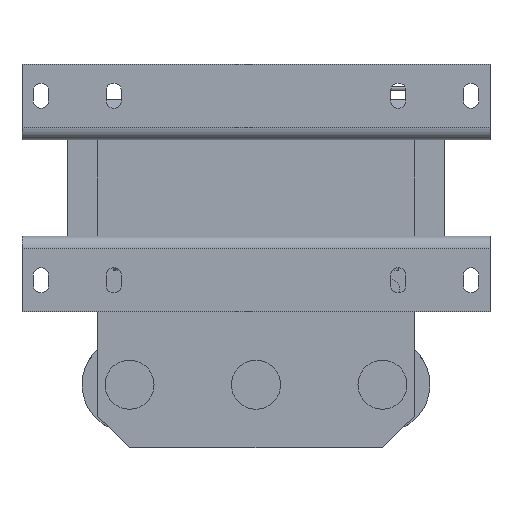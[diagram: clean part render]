
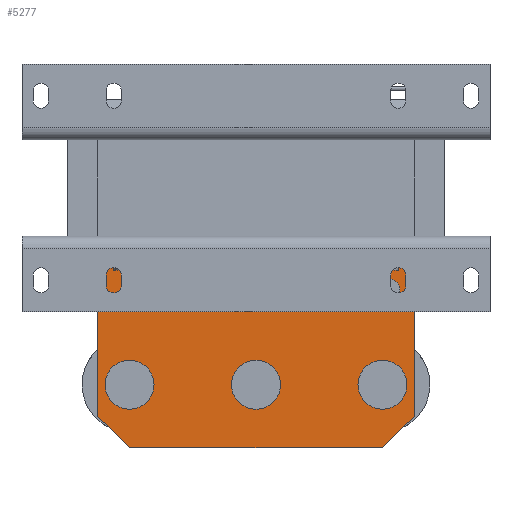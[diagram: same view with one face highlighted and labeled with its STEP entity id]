
A CAD part, front view. The second image highlights one B-rep face of the part: STEP entity #5277.
In plain terms, the highlighted planar face has unit normal (0, -1, 0).
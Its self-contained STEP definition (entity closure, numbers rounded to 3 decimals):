
#8 = CARTESIAN_POINT ( 'NONE',  ( -40., 23.5, -69.95 ) ) ;
#41 = ORIENTED_EDGE ( 'NONE', *, *, #8538, .T. ) ;
#280 = AXIS2_PLACEMENT_3D ( 'NONE', #8479, #15542, #4318 ) ;
#430 = DIRECTION ( 'NONE',  ( 0., 0., 1. ) ) ;
#473 = DIRECTION ( 'NONE',  ( 0., 0., 1. ) ) ;
#718 = DIRECTION ( 'NONE',  ( 0., -1., 0. ) ) ;
#859 = ORIENTED_EDGE ( 'NONE', *, *, #4625, .F. ) ;
#957 = EDGE_LOOP ( 'NONE', ( #23367, #859 ) ) ;
#1225 = VERTEX_POINT ( 'NONE', #23707 ) ;
#1398 = LINE ( 'NONE', #7120, #17499 ) ;
#1525 = DIRECTION ( 'NONE',  ( 0.707, 0., 0.707 ) ) ;
#1708 = ORIENTED_EDGE ( 'NONE', *, *, #9685, .F. ) ;
#1717 = VERTEX_POINT ( 'NONE', #8469 ) ;
#1868 = AXIS2_PLACEMENT_3D ( 'NONE', #2977, #2739, #19783 ) ;
#2539 = VECTOR ( 'NONE', #8842, 1000. ) ;
#2739 = DIRECTION ( 'NONE',  ( 0., -1., 0. ) ) ;
#2966 = AXIS2_PLACEMENT_3D ( 'NONE', #19158, #15410, #430 ) ;
#2977 = CARTESIAN_POINT ( 'NONE',  ( -40., 23.5, -62.2 ) ) ;
#2981 = AXIS2_PLACEMENT_3D ( 'NONE', #19929, #21862, #12167 ) ;
#3296 = ORIENTED_EDGE ( 'NONE', *, *, #19776, .T. ) ;
#3384 = VERTEX_POINT ( 'NONE', #8 ) ;
#3530 = CARTESIAN_POINT ( 'NONE',  ( 42., 23.5, -28.7 ) ) ;
#3704 = ORIENTED_EDGE ( 'NONE', *, *, #11056, .T. ) ;
#4011 = VERTEX_POINT ( 'NONE', #10680 ) ;
#4318 = DIRECTION ( 'NONE',  ( 0., 0., 1. ) ) ;
#4625 = EDGE_CURVE ( 'NONE', #22520, #1225, #19283, .T. ) ;
#4689 = FACE_BOUND ( 'NONE', #15128, .T. ) ;
#5071 = VERTEX_POINT ( 'NONE', #6546 ) ;
#5277 = ADVANCED_FACE ( 'NONE', ( #4689, #11759, #15424, #20876, #15773 ), #11651, .F. ) ;
#6106 = CARTESIAN_POINT ( 'NONE',  ( -50., 23.5, -72.2 ) ) ;
#6220 = VECTOR ( 'NONE', #23671, 1000. ) ;
#6546 = CARTESIAN_POINT ( 'NONE',  ( -40., 23.5, -82.2 ) ) ;
#6625 = CIRCLE ( 'NONE', #13647, 3.5 ) ;
#6914 = EDGE_CURVE ( 'NONE', #8366, #5071, #8214, .T. ) ;
#6955 = DIRECTION ( 'NONE',  ( 0., 0., -1. ) ) ;
#7015 = EDGE_LOOP ( 'NONE', ( #13412, #16724 ) ) ;
#7120 = CARTESIAN_POINT ( 'NONE',  ( 40., 23.5, -82.2 ) ) ;
#7412 = VERTEX_POINT ( 'NONE', #17836 ) ;
#8214 = LINE ( 'NONE', #23032, #9548 ) ;
#8366 = VERTEX_POINT ( 'NONE', #9458 ) ;
#8460 = EDGE_CURVE ( 'NONE', #22135, #4011, #9944, .T. ) ;
#8469 = CARTESIAN_POINT ( 'NONE',  ( -50., 23.5, -21.2 ) ) ;
#8479 = CARTESIAN_POINT ( 'NONE',  ( 50., 23.5, -17.2 ) ) ;
#8538 = EDGE_CURVE ( 'NONE', #17610, #5071, #16132, .T. ) ;
#8781 = AXIS2_PLACEMENT_3D ( 'NONE', #11890, #19305, #10912 ) ;
#8842 = DIRECTION ( 'NONE',  ( 0.707, 0., -0.707 ) ) ;
#8873 = ORIENTED_EDGE ( 'NONE', *, *, #10984, .F. ) ;
#9333 = DIRECTION ( 'NONE',  ( 0., 1., 0. ) ) ;
#9458 = CARTESIAN_POINT ( 'NONE',  ( 40., 23.5, -82.2 ) ) ;
#9548 = VECTOR ( 'NONE', #13577, 1000. ) ;
#9592 = CIRCLE ( 'NONE', #2966, 3.5 ) ;
#9685 = EDGE_CURVE ( 'NONE', #3384, #18001, #13506, .T. ) ;
#9746 = EDGE_CURVE ( 'NONE', #1225, #22520, #12342, .T. ) ;
#9766 = EDGE_LOOP ( 'NONE', ( #22614, #1708 ) ) ;
#9944 = CIRCLE ( 'NONE', #8781, 7.75 ) ;
#10088 = EDGE_CURVE ( 'NONE', #4011, #22135, #11261, .T. ) ;
#10346 = LINE ( 'NONE', #17751, #18045 ) ;
#10355 = AXIS2_PLACEMENT_3D ( 'NONE', #21938, #12717, #11258 ) ;
#10680 = CARTESIAN_POINT ( 'NONE',  ( 0., 23.5, -54.45 ) ) ;
#10912 = DIRECTION ( 'NONE',  ( 0., 0., 1. ) ) ;
#10978 = CARTESIAN_POINT ( 'NONE',  ( -50., 23.5, -17.2 ) ) ;
#10984 = EDGE_CURVE ( 'NONE', #7412, #19062, #22198, .T. ) ;
#11056 = EDGE_CURVE ( 'NONE', #8366, #19062, #1398, .T. ) ;
#11258 = DIRECTION ( 'NONE',  ( 0., 0., 1. ) ) ;
#11261 = CIRCLE ( 'NONE', #21723, 7.75 ) ;
#11651 = PLANE ( 'NONE',  #280 ) ;
#11759 = FACE_BOUND ( 'NONE', #9766, .T. ) ;
#11890 = CARTESIAN_POINT ( 'NONE',  ( 0., 23.5, -62.2 ) ) ;
#12167 = DIRECTION ( 'NONE',  ( 0., 0., 1. ) ) ;
#12225 = EDGE_CURVE ( 'NONE', #16929, #15233, #6625, .T. ) ;
#12342 = CIRCLE ( 'NONE', #2981, 7.75 ) ;
#12385 = CARTESIAN_POINT ( 'NONE',  ( 50., 23.5, -17.2 ) ) ;
#12717 = DIRECTION ( 'NONE',  ( 0., -1., 0. ) ) ;
#12797 = LINE ( 'NONE', #10978, #20033 ) ;
#13129 = ORIENTED_EDGE ( 'NONE', *, *, #18154, .T. ) ;
#13412 = ORIENTED_EDGE ( 'NONE', *, *, #10088, .F. ) ;
#13506 = CIRCLE ( 'NONE', #16603, 7.75 ) ;
#13577 = DIRECTION ( 'NONE',  ( -1., 0., 0. ) ) ;
#13647 = AXIS2_PLACEMENT_3D ( 'NONE', #18559, #9333, #21732 ) ;
#13881 = CARTESIAN_POINT ( 'NONE',  ( -40., 23.5, -54.45 ) ) ;
#13946 = CIRCLE ( 'NONE', #1868, 7.75 ) ;
#14296 = ORIENTED_EDGE ( 'NONE', *, *, #6914, .F. ) ;
#14893 = ORIENTED_EDGE ( 'NONE', *, *, #12225, .T. ) ;
#14968 = CARTESIAN_POINT ( 'NONE',  ( 40., 23.5, -69.95 ) ) ;
#15128 = EDGE_LOOP ( 'NONE', ( #14893, #3296 ) ) ;
#15233 = VERTEX_POINT ( 'NONE', #20062 ) ;
#15410 = DIRECTION ( 'NONE',  ( 0., 1., 0. ) ) ;
#15424 = FACE_BOUND ( 'NONE', #7015, .T. ) ;
#15542 = DIRECTION ( 'NONE',  ( 0., 1., 0. ) ) ;
#15773 = FACE_OUTER_BOUND ( 'NONE', #19008, .T. ) ;
#15891 = ORIENTED_EDGE ( 'NONE', *, *, #18823, .T. ) ;
#16104 = DIRECTION ( 'NONE',  ( 0., -1., 0. ) ) ;
#16132 = LINE ( 'NONE', #20146, #2539 ) ;
#16354 = DIRECTION ( 'NONE',  ( 0., 0., 1. ) ) ;
#16603 = AXIS2_PLACEMENT_3D ( 'NONE', #17269, #718, #473 ) ;
#16724 = ORIENTED_EDGE ( 'NONE', *, *, #8460, .F. ) ;
#16929 = VERTEX_POINT ( 'NONE', #3530 ) ;
#17269 = CARTESIAN_POINT ( 'NONE',  ( -40., 23.5, -62.2 ) ) ;
#17499 = VECTOR ( 'NONE', #1525, 1000. ) ;
#17610 = VERTEX_POINT ( 'NONE', #6106 ) ;
#17751 = CARTESIAN_POINT ( 'NONE',  ( 50., 23.5, -21.2 ) ) ;
#17836 = CARTESIAN_POINT ( 'NONE',  ( 50., 23.5, -21.2 ) ) ;
#18001 = VERTEX_POINT ( 'NONE', #13881 ) ;
#18045 = VECTOR ( 'NONE', #19933, 1000. ) ;
#18154 = EDGE_CURVE ( 'NONE', #7412, #1717, #10346, .T. ) ;
#18278 = CARTESIAN_POINT ( 'NONE',  ( 0., 23.5, -69.95 ) ) ;
#18559 = CARTESIAN_POINT ( 'NONE',  ( 42., 23.5, -32.2 ) ) ;
#18823 = EDGE_CURVE ( 'NONE', #1717, #17610, #12797, .T. ) ;
#19008 = EDGE_LOOP ( 'NONE', ( #3704, #8873, #13129, #15891, #41, #14296 ) ) ;
#19062 = VERTEX_POINT ( 'NONE', #23228 ) ;
#19158 = CARTESIAN_POINT ( 'NONE',  ( 42., 23.5, -32.2 ) ) ;
#19283 = CIRCLE ( 'NONE', #10355, 7.75 ) ;
#19305 = DIRECTION ( 'NONE',  ( 0., -1., 0. ) ) ;
#19776 = EDGE_CURVE ( 'NONE', #15233, #16929, #9592, .T. ) ;
#19783 = DIRECTION ( 'NONE',  ( 0., 0., 1. ) ) ;
#19929 = CARTESIAN_POINT ( 'NONE',  ( 40., 23.5, -62.2 ) ) ;
#19933 = DIRECTION ( 'NONE',  ( -1., 0., 0. ) ) ;
#19990 = CARTESIAN_POINT ( 'NONE',  ( 0., 23.5, -62.2 ) ) ;
#20033 = VECTOR ( 'NONE', #6955, 1000. ) ;
#20062 = CARTESIAN_POINT ( 'NONE',  ( 42., 23.5, -35.7 ) ) ;
#20146 = CARTESIAN_POINT ( 'NONE',  ( -50., 23.5, -72.2 ) ) ;
#20876 = FACE_BOUND ( 'NONE', #957, .T. ) ;
#21615 = EDGE_CURVE ( 'NONE', #18001, #3384, #13946, .T. ) ;
#21723 = AXIS2_PLACEMENT_3D ( 'NONE', #19990, #16104, #16354 ) ;
#21732 = DIRECTION ( 'NONE',  ( 0., 0., 1. ) ) ;
#21862 = DIRECTION ( 'NONE',  ( 0., -1., 0. ) ) ;
#21938 = CARTESIAN_POINT ( 'NONE',  ( 40., 23.5, -62.2 ) ) ;
#22135 = VERTEX_POINT ( 'NONE', #18278 ) ;
#22198 = LINE ( 'NONE', #12385, #6220 ) ;
#22520 = VERTEX_POINT ( 'NONE', #14968 ) ;
#22614 = ORIENTED_EDGE ( 'NONE', *, *, #21615, .F. ) ;
#23032 = CARTESIAN_POINT ( 'NONE',  ( 50., 23.5, -82.2 ) ) ;
#23228 = CARTESIAN_POINT ( 'NONE',  ( 50., 23.5, -72.2 ) ) ;
#23367 = ORIENTED_EDGE ( 'NONE', *, *, #9746, .F. ) ;
#23671 = DIRECTION ( 'NONE',  ( 0., 0., -1. ) ) ;
#23707 = CARTESIAN_POINT ( 'NONE',  ( 40., 23.5, -54.45 ) ) ;
